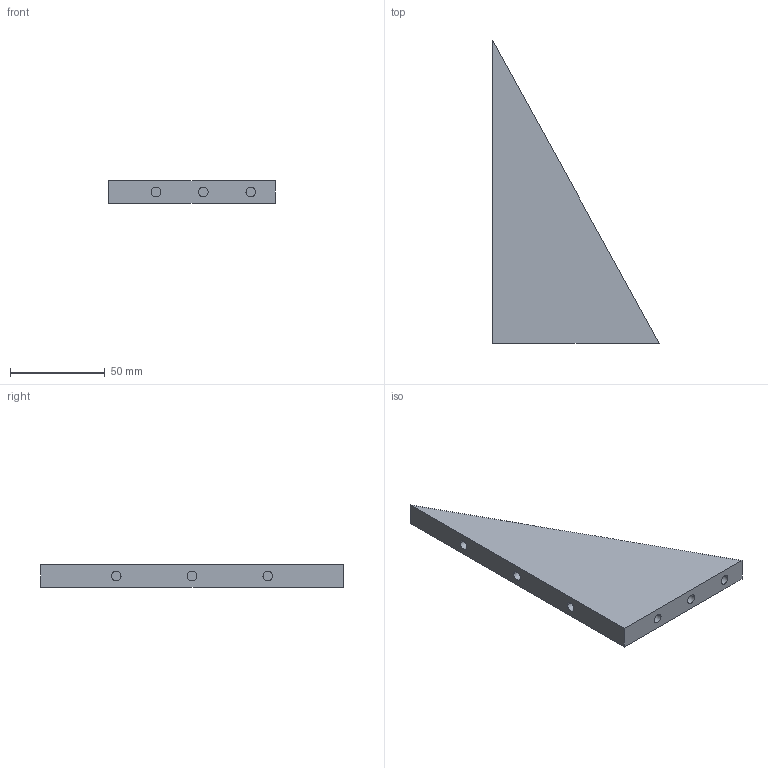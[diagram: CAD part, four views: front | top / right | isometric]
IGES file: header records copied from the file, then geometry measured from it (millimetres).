
Start section:  PTC IGES file: h160-k80l-sp.igs
Global section: file name: h160-k80l-sp.igs; native system: Pro/ENGINEER by Parametric Technology Corporation; preprocessor: 2008230; author: Owner; organization: Unknown; date: 20121211.141452; units: millimetre
Bounding box: 88 x 160 x 12 mm (x, y, z)
Surface area: 20189.7 mm2 (no closed solid volume)
Topology: 0 solids, 0 shells, 23 faces, 90 edges, 90 vertices
Faces by surface type: revolution 12, bspline 11
